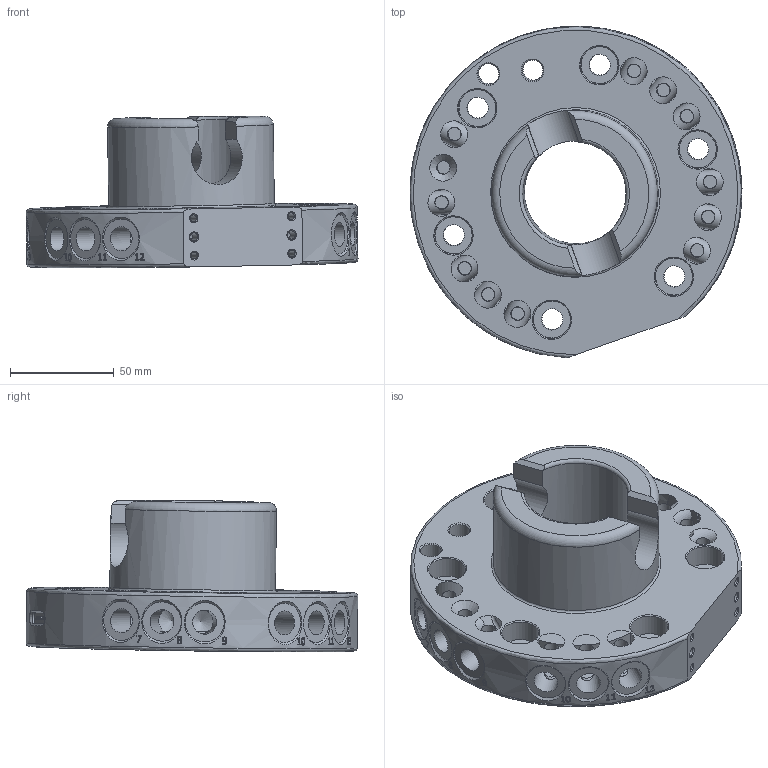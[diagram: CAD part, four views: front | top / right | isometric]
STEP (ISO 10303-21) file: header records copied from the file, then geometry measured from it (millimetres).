
FILE_DESCRIPTION(/* description */ (''),/* implementation_level */ '2;1');
FILE_NAME(/* name */ 'G-SHS160-U-A125.stp',/* time_stamp */ '2024-05-24T11:30:17+02:00',/* author */ ('ysplieth'),/* organization */ (''),/* preprocessor_version */ 'ST-DEVELOPER v20',/* originating_system */ 'Autodesk Inventor 2024',/* authorisation */ '');
FILE_SCHEMA (('AUTOMOTIVE_DESIGN { 1 0 10303 214 3 1 1 }'));
Length unit declared in the file: millimetre
Products named in the file (1): Bauteil1
Bounding box: 160.3 x 160.24 x 73.35 mm (x, y, z)
Volume: 515989.4 mm3; surface area: 90556.2 mm2
Topology: 1 solids, 1 shells, 886 faces, 2390 edges, 1588 vertices
Faces by surface type: plane 341, bspline 229, cylinder 169, cone 138, torus 9
Full cylindrical faces by diameter (mm): 3.3 x4, 4 x2, 6.5 x12, 6.75 x12, 10 x2, 10.25 x6, 11 x12, 11.6 x12, 18 x6, 50 x1, 80 x2
Entity records: 66970 total; most frequent: CARTESIAN_POINT 45943, ORIENTED_EDGE 4720, DIRECTION 3174, EDGE_CURVE 2360, VERTEX_POINT 1587, AXIS2_PLACEMENT_3D 1089, EDGE_LOOP 1039, LINE 996
